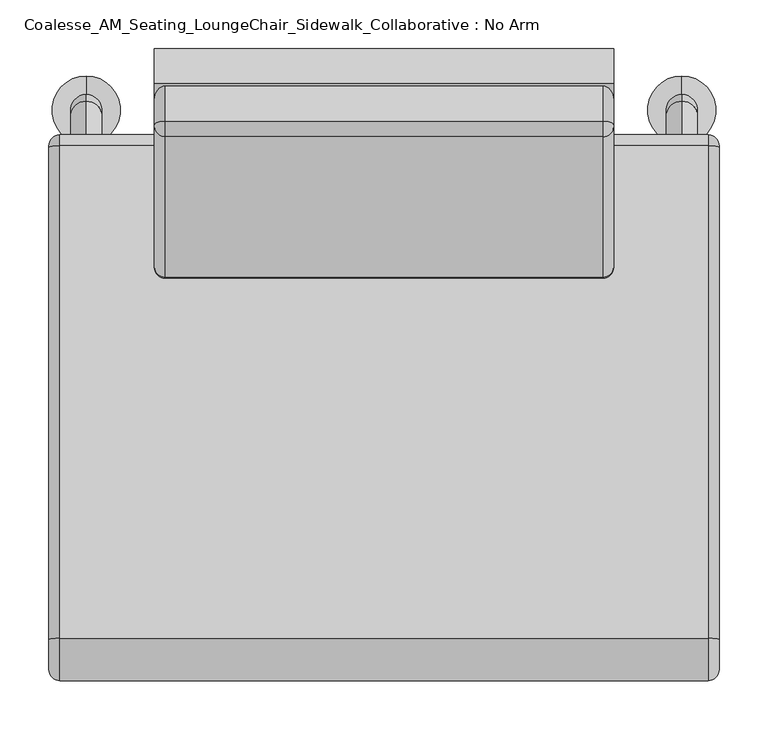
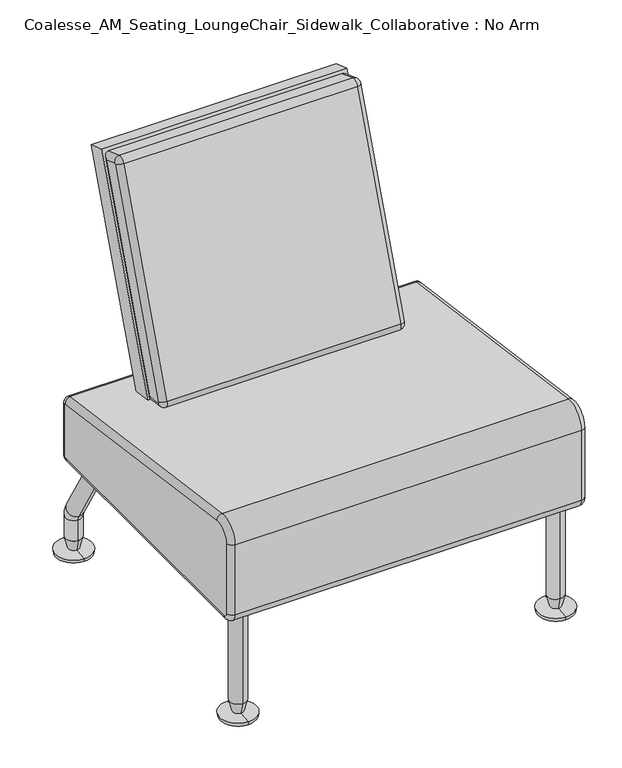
"""IFC4 building model written with IfcOpenShell, lengths in millimetres: furniture geometry, Coalesse_AM_Seating_LoungeChair_Sidewalk_Collaborative : No Arm."""

from ifc_helpers import new_model, si_unit, point, frame, origin, place, context, project, spatial, polyline, circle_curve, ellipse_curve, trimmed, outline, extrude, source, transform, mapped, element, save
from ifc_brep_helpers import plane_surface, cylinder_surface, revolved_surface, advanced_brep


def coalesse_am_seating_loungechair_sidewalk_collaborative_no_c6145337(model_context):
    return source(origin(), model_context, "Body", "SolidModel", [
        advanced_brep(
        [(122.9089794, 412.7742549, 335.1190448), (122.9089794, 414.1472627, 333.546102), (122.9089794, 414.1472627, 228.6), (122.9089794, 412.5597627, 227.0125), (122.9089794, -114.4902373, 227.0125), (122.9089794, -122.4277373, 234.95), (122.9089794, -122.4277373, 377.1837519), (122.9089794, -91.7938701, 403.9237811), (808.7089794, -91.7938701, 403.9237811), (808.7089794, -122.4277373, 377.1837519), (808.7089794, -122.4277373, 234.95), (808.7089794, -114.4902373, 227.0125), (808.7089794, 412.5597627, 227.0125), (808.7089794, 414.1472627, 228.6), (808.7089794, 414.1472627, 333.546102), (808.7089794, 412.7742549, 335.1190448), (797.5964794, -90.2924248, 414.9343814), (797.5964794, 414.2757002, 346.1296451), (134.0214794, 414.2757002, 346.1296451), (134.0214794, -90.2924248, 414.9343814), (797.5964794, 425.2597627, 333.546102), (134.0214794, 425.2597627, 333.546102), (797.5964794, 425.2597627, 228.6), (134.0214794, 425.2597627, 228.6), (797.5964794, 412.5597627, 215.9), (134.0214794, 412.5597627, 215.9), (797.5964794, -114.4902373, 215.9), (134.0214794, -114.4902373, 215.9), (797.5964794, -133.5402373, 234.95), (134.0214726, -133.5402373, 234.95), (797.5964794, -133.5402373, 377.1837519), (134.0214794, -133.5402373, 377.1837519)],
        [
            (0, 1, circle_curve(frame((122.9089794, 412.5597627, 333.546102), z_axis=(-1.0, 0.0, 0.0), x_axis=(0.0, 0.13511318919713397, 0.9908301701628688)), 1.5875)),
            (1, 2),
            (2, 3, circle_curve(frame((122.9089794, 412.5597627, 228.6), z_axis=(-1.0, 0.0, 0.0), x_axis=(0.0, 1.0, 0.0)), 1.5875)),
            (3, 4),
            (4, 5, circle_curve(frame((122.9089794, -114.4902373, 234.95), z_axis=(-1.0, 0.0, 0.0), x_axis=(0.0, 0.0, -1.0)), 7.9375)),
            (5, 6),
            (6, 7, circle_curve(frame((122.9089794, -95.4402373, 377.1837519), z_axis=(-1.0, 0.0, 0.0), x_axis=(0.0, -1.0, 0.0)), 26.9875)),
            (7, 0),
            (8, 9, circle_curve(frame((808.7089794, -95.4402373, 377.1837519), z_axis=(1.0, 0.0, 0.0), x_axis=(0.0, 0.13511318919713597, 0.9908301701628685)), 26.9875)),
            (9, 10),
            (10, 11, circle_curve(frame((808.7089794, -114.4902373, 234.95), z_axis=(1.0, 0.0, 0.0), x_axis=(0.0, -1.0, 0.0)), 7.9375)),
            (11, 12),
            (12, 13, circle_curve(frame((808.7089794, 412.5597627, 228.6), z_axis=(1.0, 0.0, 0.0), x_axis=(0.0, 0.0, -1.0)), 1.5875)),
            (13, 14),
            (14, 15, circle_curve(frame((808.7089794, 412.5597627, 333.546102), z_axis=(1.0, 0.0, 0.0), x_axis=(0.0, 1.0, 0.0)), 1.5875)),
            (15, 8),
            (16, 17),
            (17, 18),
            (18, 19),
            (19, 16),
            (17, 20, circle_curve(frame((797.5964794, 412.5597627, 333.546102), z_axis=(-1.0, 0.0, 0.0), x_axis=(0.0, -1.0, 0.0)), 12.7)),
            (20, 21),
            (21, 18, circle_curve(frame((134.0214794, 412.5597627, 333.546102), z_axis=(1.0, 0.0, 0.0), x_axis=(0.0, -1.0, 0.0)), 12.7)),
            (20, 22),
            (22, 23),
            (23, 21),
            (22, 24, circle_curve(frame((797.5964794, 412.5597627, 228.6), z_axis=(-1.0, 0.0, 0.0), x_axis=(0.0, -1.0, 0.0)), 12.7)),
            (24, 25),
            (25, 23, circle_curve(frame((134.0214794, 412.5597627, 228.6), z_axis=(1.0, 0.0, 0.0), x_axis=(0.0, -1.0, 0.0)), 12.7)),
            (24, 26),
            (26, 27),
            (27, 25),
            (26, 28, circle_curve(frame((797.5964794, -114.4902373, 234.95), z_axis=(-1.0, 0.0, 0.0), x_axis=(0.0, -1.0, 0.0)), 19.05)),
            (28, 29),
            (29, 27, circle_curve(frame((134.0214794, -114.4902373, 234.95), z_axis=(1.0, 0.0, 0.0), x_axis=(0.0, -1.0, 0.0)), 19.05)),
            (28, 30),
            (30, 31),
            (31, 29),
            (30, 16, circle_curve(frame((797.5964794, -95.4402373, 377.1837519), z_axis=(-1.0, 0.0, 0.0), x_axis=(0.0, -1.0, 0.0)), 38.1)),
            (19, 31, circle_curve(frame((134.0214794, -95.4402373, 377.1837519), z_axis=(1.0, 0.0, 0.0), x_axis=(0.0, -1.0, 0.0)), 38.1)),
            (30, 9, circle_curve(frame((797.5964794, -122.4277373, 377.1837519), z_axis=(0.0, 0.0, 0.9999999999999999), x_axis=(0.0, -0.9999999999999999, 0.0)), 11.1125)),
            (8, 16, circle_curve(frame((797.5964794, -91.7938701, 403.9237811), z_axis=(0.0, -0.9908301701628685, 0.13511318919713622), x_axis=(0.0, 0.13511318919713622, 0.9908301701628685)), 11.1125)),
            (28, 10, circle_curve(frame((797.5964794, -122.4277373, 234.95), z_axis=(0.0, 0.0, 1.0), x_axis=(0.0, -1.0, 0.0)), 11.1125)),
            (26, 11, circle_curve(frame((797.5964794, -114.4902373, 227.0125), z_axis=(0.0, -1.0, 0.0), x_axis=(0.0, 0.0, -1.0)), 11.1125)),
            (24, 12, circle_curve(frame((797.5964794, 412.5597627, 227.0125), z_axis=(0.0, -1.0, 0.0), x_axis=(0.0, 0.0, -1.0)), 11.1125)),
            (22, 13, circle_curve(frame((797.5964794, 414.1472627, 228.6), z_axis=(0.0, 0.0, -1.0), x_axis=(0.0, 1.0, 0.0)), 11.1125)),
            (20, 14, circle_curve(frame((797.5964794, 414.1472627, 333.546102), z_axis=(0.0, 0.0, -1.0), x_axis=(0.0, 1.0, 0.0)), 11.1125)),
            (17, 15, circle_curve(frame((797.5964794, 412.7742549, 335.1190448), z_axis=(0.0, 0.9908301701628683, -0.13511318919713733), x_axis=(0.0, 0.13511318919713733, 0.9908301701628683)), 11.1125)),
            (21, 1, circle_curve(frame((134.0214794, 414.1472627, 333.546102), z_axis=(0.0, 0.0, 1.0), x_axis=(0.0, -1.0, 0.0)), 11.1125)),
            (0, 18, circle_curve(frame((134.0214794, 412.7742549, 335.1190448), z_axis=(0.0, 0.9908301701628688, -0.13511318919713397), x_axis=(0.0, -0.13511318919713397, -0.9908301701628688)), 11.1125)),
            (23, 2, circle_curve(frame((134.0214794, 414.1472627, 228.6), z_axis=(0.0, 0.0, 1.0), x_axis=(0.0, -1.0, 0.0)), 11.1125)),
            (25, 3, circle_curve(frame((134.0214794, 412.5597627, 227.0125), z_axis=(0.0, 1.0, 0.0), x_axis=(0.0, 0.0, 1.0)), 11.1125)),
            (27, 4, circle_curve(frame((134.0214794, -114.4902373, 227.0125), z_axis=(0.0, 1.0, 0.0), x_axis=(0.0, 0.0, 1.0)), 11.1125)),
            (29, 5, circle_curve(frame((134.0214794, -122.4277373, 234.95), z_axis=(0.0, 0.0, -1.0), x_axis=(0.0, 1.0, 0.0)), 11.1125)),
            (31, 6, circle_curve(frame((134.0214794, -122.4277373, 377.1837519), z_axis=(0.0, 0.0, -1.0), x_axis=(0.0, 1.0, 0.0)), 11.1125)),
            (19, 7, circle_curve(frame((134.0214794, -91.7938701, 403.9237811), z_axis=(0.0, -0.9908301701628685, 0.1351131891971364), x_axis=(0.0, -0.1351131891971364, -0.9908301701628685)), 11.1125)),
        ],
        [
            plane_surface(frame((122.9089794, 564.9597627, 325.5818208), z_axis=(-1.0000000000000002, 0.0, 0.0), x_axis=(0.0, 0.9908301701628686, -0.1351131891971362))),
            plane_surface(frame((808.7089794, 564.9597627, 325.5818208), z_axis=(1.0000000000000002, 0.0, 0.0), x_axis=(0.0, -0.9908301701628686, 0.1351131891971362))),
            plane_surface(frame((122.9089794, -90.2924248, 414.9343814), z_axis=(0.0, 0.1351131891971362, 0.9908301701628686), x_axis=(1.0, 0.0, 0.0))),
            cylinder_surface(frame((808.7089794, 412.5597627, 333.546102), z_axis=(-1.0, 0.0, 0.0), x_axis=(0.0, -1.0, 0.0)), 12.7),
            plane_surface(frame((122.9089794, 425.2597627, 333.546102), z_axis=(0.0, 1.0, 0.0), x_axis=(1.0, 0.0, 0.0))),
            cylinder_surface(frame((808.7089794, 412.5597627, 228.6), z_axis=(-1.0, 0.0, 0.0), x_axis=(0.0, -1.0, 0.0)), 12.7),
            plane_surface(frame((122.9089794, 412.5597627, 215.9), z_axis=(0.0, 0.0, -1.0), x_axis=(1.0, 0.0, 0.0))),
            cylinder_surface(frame((808.7089794, -114.4902373, 234.95), z_axis=(-1.0, 0.0, 0.0), x_axis=(0.0, -1.0, 0.0)), 19.05),
            plane_surface(frame((122.9089794, -133.5402373, 234.95), z_axis=(0.0, -1.0, 0.0), x_axis=(1.0, 0.0, 0.0))),
            cylinder_surface(frame((808.7089794, -95.4402373, 377.1837519), z_axis=(-1.0, 0.0, 0.0), x_axis=(0.0, -1.0, 0.0)), 38.1),
            revolved_surface(trimmed(ellipse_curve(frame((797.5964794, -91.7938701, 403.9237811), z_axis=(0.0, 0.9908301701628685, -0.13511318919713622), x_axis=(0.0, 0.13511318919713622, 0.9908301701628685)), 11.1125, 11.1125), [point((797.5964794, -90.2924248, 414.9343814))], [point((808.7089794, -91.7938701, 403.9237811))], True, "CARTESIAN"), (808.7089794, -95.4402373, 377.1837519), (1.0, 0.0, 0.0)),
            cylinder_surface(frame((797.5964794, -122.4277373, 377.1837519), z_axis=(0.0, 0.0, -1.0), x_axis=(0.0, -1.0, 0.0)), 11.1125),
            revolved_surface(trimmed(ellipse_curve(frame((797.5964794, -122.4277373, 234.95), z_axis=(0.0, 0.0, 1.0), x_axis=(0.0, -1.0, 0.0)), 11.1125, 11.1125), [point((797.5964794, -133.5402373, 234.95))], [point((808.7089794, -122.4277373, 234.95))], True, "CARTESIAN"), (808.7089794, -114.4902373, 234.95), (1.0, 0.0, 0.0)),
            cylinder_surface(frame((797.5964794, -114.4902373, 227.0125), z_axis=(0.0, 1.0, 0.0), x_axis=(0.0, 0.0, -1.0)), 11.1125),
            revolved_surface(trimmed(ellipse_curve(frame((797.5964794, 412.5597627, 227.0125), z_axis=(0.0, -1.0, 0.0), x_axis=(0.0, 0.0, -1.0)), 11.1125, 11.1125), [point((797.5964794, 412.5597627, 215.9))], [point((808.7089794, 412.5597627, 227.0125))], True, "CARTESIAN"), (808.7089794, 412.5597627, 228.6), (1.0, 0.0, 0.0)),
            cylinder_surface(frame((797.5964794, 414.1472627, 228.6), z_axis=(0.0, 0.0, 1.0), x_axis=(0.0, 1.0, 0.0)), 11.1125),
            revolved_surface(trimmed(ellipse_curve(frame((797.5964794, 414.1472627, 333.546102), z_axis=(0.0, 0.0, -1.0), x_axis=(0.0, 1.0, 0.0)), 11.1125, 11.1125), [point((797.5964794, 425.2597627, 333.546102))], [point((808.7089794, 414.1472627, 333.546102))], True, "CARTESIAN"), (808.7089794, 412.5597627, 333.546102), (1.0, 0.0, 0.0)),
            cylinder_surface(frame((797.5964794, 412.7742549, 335.1190448), z_axis=(0.0, -0.9908301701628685, 0.13511318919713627), x_axis=(0.0, 0.13511318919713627, 0.9908301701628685)), 11.1125),
            revolved_surface(trimmed(ellipse_curve(frame((134.0214794, 412.7742549, 335.1190448), z_axis=(0.0, -0.9908301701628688, 0.13511318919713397), x_axis=(0.0, -0.13511318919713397, -0.9908301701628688)), 11.1125, 11.1125), [point((134.0214794, 414.2757002, 346.1296451))], [point((122.9089794, 412.7742549, 335.1190448))], True, "CARTESIAN"), (122.9089794, 412.5597627, 333.546102), (-1.0, 0.0, 0.0)),
            cylinder_surface(frame((134.0214794, 414.1472627, 333.546102), z_axis=(0.0, 0.0, -1.0), x_axis=(0.0, -1.0, 0.0)), 11.1125),
            revolved_surface(trimmed(ellipse_curve(frame((134.0214794, 414.1472627, 228.6), z_axis=(0.0, 0.0, 1.0), x_axis=(0.0, -1.0, 0.0)), 11.1125, 11.1125), [point((134.0214794, 425.2597627, 228.6))], [point((122.9089794, 414.1472627, 228.6))], True, "CARTESIAN"), (122.9089794, 412.5597627, 228.6), (-1.0, 0.0, 0.0)),
            cylinder_surface(frame((134.0214794, 412.5597627, 227.0125), z_axis=(0.0, -1.0, 0.0), x_axis=(0.0, 0.0, 1.0)), 11.1125),
            revolved_surface(trimmed(ellipse_curve(frame((134.0214794, -114.4902373, 227.0125), z_axis=(0.0, 1.0, 0.0), x_axis=(0.0, 0.0, 1.0)), 11.1125, 11.1125), [point((134.0214794, -114.4902373, 215.9))], [point((122.9089794, -114.4902373, 227.0125))], True, "CARTESIAN"), (122.9089794, -114.4902373, 234.95), (-1.0, 0.0, 0.0)),
            cylinder_surface(frame((134.0214794, -122.4277373, 234.95), z_axis=(0.0, 0.0, 1.0), x_axis=(0.0, 1.0, 0.0)), 11.1125),
            revolved_surface(trimmed(ellipse_curve(frame((134.0214794, -122.4277373, 377.1837519), z_axis=(0.0, 0.0, -1.0), x_axis=(0.0, 1.0, 0.0)), 11.1125, 11.1125), [point((134.0214794, -133.5402373, 377.1837519))], [point((122.9089794, -122.4277373, 377.1837519))], True, "CARTESIAN"), (122.9089794, -95.4402373, 377.1837519), (-1.0, 0.0, 0.0)),
            cylinder_surface(frame((134.0214794, -91.7938701, 403.9237811), z_axis=(0.0, 0.9908301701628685, -0.1351131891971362), x_axis=(0.0, -0.1351131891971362, -0.9908301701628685)), 11.1125),
        ],
        [
            (0, [[1, 2, 3, 4, 5, 6, 7, 8]]),
            (1, [[9, 10, 11, 12, 13, 14, 15, 16]]),
            (2, [[17, 18, 19, 20]]),
            (3, [[21, 22, 23, -18]]),
            (4, [[24, 25, 26, -22]]),
            (5, [[27, 28, 29, -25]]),
            (6, [[30, 31, 32, -28]]),
            (7, [[33, 34, 35, -31]]),
            (8, [[36, 37, 38, -34]]),
            (9, [[39, -20, 40, -37]]),
            (10, [[41, -9, 42, -39]]),
            (11, [[-41, -36, 43, -10]]),
            (12, [[-43, -33, 44, -11]]),
            (13, [[-44, -30, 45, -12]]),
            (14, [[-45, -27, 46, -13]]),
            (15, [[-46, -24, 47, -14]]),
            (16, [[-47, -21, 48, -15]]),
            (17, [[-42, -16, -48, -17]]),
            (18, [[49, -1, 50, -23]]),
            (19, [[-49, -26, 51, -2]]),
            (20, [[-51, -29, 52, -3]]),
            (21, [[-52, -32, 53, -4]]),
            (22, [[-53, -35, 54, -5]]),
            (23, [[-54, -38, 55, -6]]),
            (24, [[-55, -40, 56, -7]]),
            (25, [[-50, -8, -56, -19]]),
        ],
    ),
        advanced_brep(
        [(230.8589764, 435.601958, 772.4897206), (230.8589764, 460.9619318, 763.2594642), (230.8589764, 317.9995565, 370.4735514), (230.8589764, 290.9791404, 374.1581532), (230.8589764, 289.7018705, 376.274053), (230.8589764, 433.56724, 771.5409151), (700.7589825, 289.7018705, 376.274053), (700.7589825, 290.9791404, 374.1581532), (700.7589825, 317.9995565, 370.4735514), (700.7589825, 460.9619318, 763.2594642), (700.7589825, 435.601958, 772.4897206), (700.7589825, 433.56724, 771.5409151), (241.9714764, 475.2049673, 769.9011067), (241.9714764, 439.4026498, 782.9320574), (689.6464825, 439.4026498, 782.9320574), (689.6464825, 475.2049673, 769.9011067), (241.9714764, 325.3770207, 358.2521909), (689.6464825, 325.3770207, 358.2521909), (241.9714764, 289.477695, 363.1475529), (689.6464825, 289.477695, 363.1475529), (241.9714764, 279.2595362, 380.0747518), (689.6464825, 279.2595362, 380.0747518), (241.9714764, 423.1249057, 775.3416139), (689.6464825, 423.1249057, 775.3416139)],
        [
            (0, 1),
            (1, 2),
            (2, 3),
            (3, 4, circle_curve(frame((230.8589764, 291.1936325, 375.7310961), z_axis=(-1.0, 0.0, 0.0), x_axis=(0.0, -0.13511318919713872, -0.9908301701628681)), 1.5875)),
            (4, 5),
            (5, 0, circle_curve(frame((230.8589764, 435.059002, 770.9979582), z_axis=(-1.0, 0.0, 0.0), x_axis=(0.0, -0.9396926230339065, 0.3420201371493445)), 1.5875)),
            (6, 7, circle_curve(frame((700.7589825, 291.1936325, 375.7310961), z_axis=(1.0, 0.0, 0.0), x_axis=(0.0, -0.9396926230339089, 0.3420201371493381)), 1.5875)),
            (7, 8),
            (8, 9),
            (9, 10),
            (10, 11, circle_curve(frame((700.7589825, 435.059002, 770.9979582), z_axis=(1.0, 0.0, 0.0), x_axis=(0.0, 0.34201951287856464, 0.939692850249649)), 1.5875)),
            (11, 6),
            (12, 13),
            (13, 14),
            (14, 15),
            (15, 12),
            (16, 12),
            (15, 17),
            (17, 16),
            (18, 16),
            (17, 19),
            (19, 18),
            (20, 18, circle_curve(frame((241.9714764, 291.1936325, 375.7310961), z_axis=(1.0, 0.0, 0.0), x_axis=(0.0, -1.0, 0.0)), 12.7)),
            (19, 21, circle_curve(frame((689.6464825, 291.1936325, 375.7310961), z_axis=(-1.0, 0.0, 0.0), x_axis=(0.0, -1.0, 0.0)), 12.7)),
            (21, 20),
            (22, 20),
            (21, 23),
            (23, 22),
            (13, 22, circle_curve(frame((241.9714764, 435.059002, 770.9979582), z_axis=(1.0, 0.0, 0.0), x_axis=(0.0, -1.0, 0.0)), 12.7)),
            (23, 14, circle_curve(frame((689.6464825, 435.059002, 770.9979582), z_axis=(-1.0, 0.0, 0.0), x_axis=(0.0, -1.0, 0.0)), 12.7)),
            (12, 1, ellipse_curve(frame((241.9714764, 460.9619318, 763.2594642), z_axis=(0.0, -0.4226185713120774, 0.9063076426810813), x_axis=(0.0, 0.9063076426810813, 0.4226185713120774)), 15.7154534, 11.1125)),
            (0, 13, circle_curve(frame((241.9714764, 435.601958, 772.4897206), z_axis=(0.0, 0.9396928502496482, -0.34201951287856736), x_axis=(0.0, -0.3420195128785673, -0.939692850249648)), 11.1125)),
            (16, 2, ellipse_curve(frame((241.9714764, 317.9995565, 370.4735514), z_axis=(0.0, 0.8561100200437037, 0.5167936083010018), x_axis=(0.0, 0.5167936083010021, -0.8561100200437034)), 14.2754555, 11.1125)),
            (18, 3, circle_curve(frame((241.9714764, 290.9791404, 374.1581532), z_axis=(0.0, 0.9908301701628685, -0.13511318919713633), x_axis=(0.0, 0.13511318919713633, 0.9908301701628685)), 11.1125)),
            (20, 4, circle_curve(frame((241.9714764, 289.7018705, 376.274053), z_axis=(0.0, -0.34202013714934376, -0.9396926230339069), x_axis=(0.0, 0.9396926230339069, -0.34202013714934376)), 11.1125)),
            (22, 5, circle_curve(frame((241.9714764, 433.56724, 771.5409151), z_axis=(0.0, -0.34202013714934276, -0.9396926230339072), x_axis=(0.0, 0.9396926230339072, -0.34202013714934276)), 11.1125)),
            (19, 7, circle_curve(frame((689.6464825, 290.9791404, 374.1581532), z_axis=(0.0, -0.9908301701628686, 0.13511318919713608), x_axis=(0.0, -0.13511318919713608, -0.9908301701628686)), 11.1125)),
            (6, 21, circle_curve(frame((689.6464825, 289.7018705, 376.274053), z_axis=(0.0, -0.34202013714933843, -0.9396926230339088), x_axis=(0.0, -0.9396926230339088, 0.34202013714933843)), 11.1125)),
            (17, 8, ellipse_curve(frame((689.6464825, 317.9995565, 370.4735514), z_axis=(0.0, -0.8561100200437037, -0.5167936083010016), x_axis=(0.0, 0.5167936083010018, -0.8561100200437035)), 14.2754555, 11.1125)),
            (15, 9, ellipse_curve(frame((689.6464825, 460.9619318, 763.2594642), z_axis=(0.0, 0.4226185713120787, -0.9063076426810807), x_axis=(0.0, 0.9063076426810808, 0.42261857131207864)), 15.7154534, 11.1125)),
            (14, 10, circle_curve(frame((689.6464825, 435.601958, 772.4897206), z_axis=(0.0, 0.9396928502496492, -0.3420195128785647), x_axis=(0.0, 0.34201951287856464, 0.939692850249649)), 11.1125)),
            (23, 11, circle_curve(frame((689.6464825, 433.56724, 771.5409151), z_axis=(0.0, 0.34202013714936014, 0.9396926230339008), x_axis=(0.0, -0.9396926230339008, 0.34202013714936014)), 11.1125)),
        ],
        [
            plane_surface(frame((230.8589764, 476.9677554, 769.2595057), z_axis=(-1.0, 0.0, 0.0), x_axis=(0.0, 0.9396928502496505, -0.3420195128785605))),
            plane_surface(frame((700.7589825, 476.9677554, 769.2595057), z_axis=(1.0, 0.0, 0.0), x_axis=(0.0, -0.9396928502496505, 0.3420195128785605))),
            plane_surface(frame((230.8589764, 439.4026498, 782.9320574), z_axis=(0.0, 0.3420195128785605, 0.9396928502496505), x_axis=(1.0, 0.0, 0.0))),
            plane_surface(frame((230.8589764, 475.2049673, 769.9011067), z_axis=(0.0, 0.939692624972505, -0.34202013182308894), x_axis=(1.0, 0.0, 0.0))),
            plane_surface(frame((230.8589764, 325.3770207, 358.2521909), z_axis=(0.0, -0.13511318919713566, -0.9908301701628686), x_axis=(1.0, 0.0, 0.0))),
            cylinder_surface(frame((700.7589825, 291.1936325, 375.7310961), z_axis=(-1.0, 0.0, 0.0), x_axis=(0.0, -1.0, 0.0)), 12.7),
            plane_surface(frame((230.8589764, 279.2595362, 380.0747518), z_axis=(0.0, -0.9396926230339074, 0.3420201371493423), x_axis=(1.0, 0.0, 0.0))),
            cylinder_surface(frame((700.7589825, 435.059002, 770.9979582), z_axis=(-1.0, 0.0, 0.0), x_axis=(0.0, -1.0, 0.0)), 12.7),
            cylinder_surface(frame((241.9714764, 435.601958, 772.4897206), z_axis=(0.0, 0.939692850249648, -0.3420195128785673), x_axis=(0.0, -0.3420195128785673, -0.939692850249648)), 11.1125),
            cylinder_surface(frame((241.9714764, 464.762633, 773.7018054), z_axis=(0.0, -0.3420201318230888, -0.939692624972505), x_axis=(0.0, -0.939692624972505, 0.3420201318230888)), 11.1125),
            cylinder_surface(frame((241.9714764, 326.878466, 369.2627912), z_axis=(0.0, -0.9908301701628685, 0.13511318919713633), x_axis=(0.0, 0.13511318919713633, 0.9908301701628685)), 11.1125),
            revolved_surface(trimmed(ellipse_curve(frame((241.9714764, 290.9791404, 374.1581532), z_axis=(0.0, 0.9908301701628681, -0.1351131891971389), x_axis=(0.0, 0.1351131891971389, 0.9908301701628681)), 11.1125, 11.1125), [point((241.9714764, 289.477695, 363.1475529))], [point((230.8589764, 290.9791404, 374.1581532))], True, "CARTESIAN"), (230.8589764, 291.1936325, 375.7310961), (-1.0, 0.0, 0.0)),
            cylinder_surface(frame((241.9714764, 289.7018705, 376.274053), z_axis=(0.0, 0.34202013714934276, 0.9396926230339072), x_axis=(0.0, 0.9396926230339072, -0.34202013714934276)), 11.1125),
            revolved_surface(trimmed(ellipse_curve(frame((241.9714764, 433.56724, 771.5409151), z_axis=(0.0, -0.342020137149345, -0.9396926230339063), x_axis=(0.0, 0.9396926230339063, -0.342020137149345)), 11.1125, 11.1125), [point((241.9714764, 423.1249057, 775.3416139))], [point((230.8589764, 433.56724, 771.5409151))], True, "CARTESIAN"), (230.8589764, 435.059002, 770.9979582), (-1.0, 0.0, 0.0)),
            revolved_surface(trimmed(ellipse_curve(frame((689.6464825, 289.7018705, 376.274053), z_axis=(0.0, 0.34202013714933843, 0.9396926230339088), x_axis=(0.0, -0.9396926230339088, 0.34202013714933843)), 11.1125, 11.1125), [point((689.6464825, 279.2595362, 380.0747518))], [point((700.7589825, 289.7018705, 376.274053))], True, "CARTESIAN"), (700.7589825, 291.1936325, 375.7310961), (1.0, 0.0, 0.0)),
            cylinder_surface(frame((689.6464825, 290.9791404, 374.1581532), z_axis=(0.0, 0.9908301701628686, -0.1351131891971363), x_axis=(0.0, -0.1351131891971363, -0.9908301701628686)), 11.1125),
            cylinder_surface(frame((689.6464825, 314.9346864, 362.0528896), z_axis=(0.0, 0.34202013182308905, 0.9396926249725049), x_axis=(0.0, 0.9396926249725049, -0.34202013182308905)), 11.1125),
            cylinder_surface(frame((689.6464825, 471.4042755, 759.4587699), z_axis=(0.0, -0.939692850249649, 0.34201951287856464), x_axis=(0.0, 0.34201951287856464, 0.939692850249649)), 11.1125),
            revolved_surface(trimmed(ellipse_curve(frame((689.6464825, 435.601958, 772.4897206), z_axis=(0.0, 0.939692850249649, -0.3420195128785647), x_axis=(0.0, 0.3420195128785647, 0.939692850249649)), 11.1125, 11.1125), [point((689.6464825, 439.4026498, 782.9320574))], [point((700.7589825, 435.601958, 772.4897206))], True, "CARTESIAN"), (700.7589825, 435.059002, 770.9979582), (1.0, 0.0, 0.0)),
            cylinder_surface(frame((689.6464825, 433.56724, 771.5409151), z_axis=(0.0, -0.34202013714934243, -0.9396926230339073), x_axis=(0.0, -0.9396926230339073, 0.34202013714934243)), 11.1125),
        ],
        [
            (0, [[1, 2, 3, 4, 5, 6]]),
            (1, [[7, 8, 9, 10, 11, 12]]),
            (2, [[13, 14, 15, 16]]),
            (3, [[17, -16, 18, 19]]),
            (4, [[20, -19, 21, 22]]),
            (5, [[23, -22, 24, 25]]),
            (6, [[26, -25, 27, 28]]),
            (7, [[29, -28, 30, -14]]),
            (8, [[31, -1, 32, -13]]),
            (9, [[-31, -17, 33, -2]]),
            (10, [[-33, -20, 34, -3]]),
            (11, [[-34, -23, 35, -4]]),
            (12, [[-35, -26, 36, -5]]),
            (13, [[-32, -6, -36, -29]]),
            (14, [[37, -7, 38, -24]]),
            (15, [[-37, -21, 39, -8]]),
            (16, [[-39, -18, 40, -9]]),
            (17, [[-40, -15, 41, -10]]),
            (18, [[-41, -30, 42, -11]]),
            (19, [[-38, -12, -42, -27]]),
        ],
    ),
        extrude(outline(polyline([(513.2448372, 763.0177625), (364.0049937, 352.9847407), (325.3770207, 358.2521909), (477.4425175, 776.0487255), (513.2448372, 763.0177625)])), frame((230.8589764, 0.0, 0.0), z_axis=(1.0, 0.0, 0.0), x_axis=(0.0, 1.0, 0.0)), (0.0, 0.0, 1.0), 469.9000061),
        advanced_brep(
        [(770.5801534, 450.6597627, 0.0), (770.5801534, 484.5264293, 0.0), (770.5801534, 416.793096, 0.0), (770.5801534, 434.7847627, 31.75), (770.5801534, 466.5347627, 31.75), (770.5801534, 450.6597627, 31.75), (770.5801534, 440.7764092, 8.5001207), (770.5801534, 460.5431161, 8.5001207), (770.5801534, 415.7347627, 6.35), (770.5801534, 485.5847627, 6.35)],
        [
            (0, 1),
            (1, 2, circle_curve(frame((770.5801534, 450.6597627, 0.0), z_axis=(0.0, 0.0, -1.0), x_axis=(0.0, 1.0, 0.0)), 33.8666667)),
            (2, 0),
            (2, 1, circle_curve(frame((770.5801534, 450.6597627, 0.0), z_axis=(0.0, 0.0, -1.0), x_axis=(0.0, 1.0, 0.0)), 33.8666667)),
            (3, 4, circle_curve(frame((770.5801534, 450.6597627, 31.75), z_axis=(0.0, 0.0, 1.0), x_axis=(0.0, 1.0, 0.0)), 15.875)),
            (4, 5),
            (5, 3),
            (4, 3, circle_curve(frame((770.5801534, 450.6597627, 31.75), z_axis=(0.0, 0.0, 1.0), x_axis=(0.0, 1.0, 0.0)), 15.875)),
            (6, 7, circle_curve(frame((770.5801534, 450.6597627, 8.5001207), z_axis=(0.0, 0.0, 1.0), x_axis=(0.0, 1.0, 0.0)), 9.8833534)),
            (7, 4),
            (3, 6),
            (7, 6, circle_curve(frame((770.5801534, 450.6597627, 8.5001207), z_axis=(0.0, 0.0, 1.0), x_axis=(0.0, 1.0, 0.0)), 9.8833534)),
            (8, 9, circle_curve(frame((770.5801534, 450.6597627, 6.35), z_axis=(0.0, 0.0, 1.0), x_axis=(0.0, 1.0, 0.0)), 34.925)),
            (9, 7),
            (6, 8),
            (9, 8, circle_curve(frame((770.5801534, 450.6597627, 6.35), z_axis=(0.0, 0.0, 1.0), x_axis=(0.0, 1.0, 0.0)), 34.925)),
            (1, 9),
            (8, 2),
        ],
        [
            plane_surface(frame((770.5801534, 450.6597627, 0.0), z_axis=(0.0, 0.0, -1.0), x_axis=(0.0, 1.0, 0.0))),
            plane_surface(frame((770.5801534, 450.6597627, 31.75), z_axis=(0.0, 0.0, 1.0), x_axis=(0.0, 1.0, 0.0))),
            revolved_surface(polyline([(770.5801534, 466.5347627, 31.75), (770.5801534, 460.5431161, 8.5001207)]), (770.5801534, 450.6597627, -31.75), (0.0, 0.0, -1.0)),
            revolved_surface(polyline([(770.5801534, 460.5431161, 8.5001207), (770.5801534, 485.5847627, 6.35)]), (770.5801534, 450.6597627, -31.75), (0.0, 0.0, -1.0)),
            revolved_surface(polyline([(770.5801534, 485.5847627, 6.35), (770.5801534, 484.5264293, 0.0)]), (770.5801534, 450.6597627, -31.75), (0.0, 0.0, -1.0)),
        ],
        [
            (0, [[1, 2, 3]]),
            (0, [[-3, 4, -1]]),
            (1, [[5, 6, 7]]),
            (1, [[8, -7, -6]]),
            (2, [[9, 10, -5, 11]]),
            (2, [[12, -11, -8, -10]]),
            (3, [[13, 14, -9, 15]]),
            (3, [[16, -15, -12, -14]]),
            (4, [[-2, 17, -13, 18]]),
            (4, [[-4, -18, -16, -17]]),
        ],
    ),
        advanced_brep(
        [(770.5801534, 434.7847627, 31.75), (770.5801534, 466.5347627, 31.75), (770.5801534, 434.7847627, 73.4363994), (770.5801534, 466.5347627, 73.4363994), (770.5801534, 459.6905974, 98.4722611), (770.5801534, 432.3561879, 82.3200923), (770.5801534, 353.4225241, 215.8999916), (770.5801534, 380.7569336, 232.0521604)],
        [
            (0, 1, circle_curve(frame((770.5801534, 450.6597627, 31.75), z_axis=(0.0, 0.0, -1.0), x_axis=(0.0, 1.0, 0.0)), 15.875)),
            (1, 0, circle_curve(frame((770.5801534, 450.6597627, 31.75), z_axis=(0.0, 0.0, -1.0), x_axis=(0.0, 1.0, 0.0)), 15.875)),
            (0, 2),
            (2, 3, circle_curve(frame((770.5801534, 450.6597627, 73.4363994), z_axis=(0.0, 0.0, -1.0), x_axis=(0.0, 1.0, 0.0)), 15.875)),
            (3, 1),
            (3, 2, circle_curve(frame((770.5801534, 450.6597627, 73.4363994), z_axis=(0.0, 0.0, -1.0), x_axis=(0.0, 1.0, 0.0)), 15.875)),
            (4, 3, circle_curve(frame((770.5801534, 417.3222627, 73.4363994), z_axis=(-1.0, 0.0, 0.0), x_axis=(0.0, 1.0, 0.0)), 49.2125)),
            (2, 5, circle_curve(frame((770.5801534, 417.3222627, 73.4363994), z_axis=(1.0, 0.0, 0.0), x_axis=(0.0, 1.0, 0.0)), 17.4625)),
            (5, 4, circle_curve(frame((770.5801534, 446.0233926, 90.3961767), z_axis=(0.0, 0.5087297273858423, -0.8609262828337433), x_axis=(0.0, 0.8609262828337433, 0.5087297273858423)), 15.875)),
            (4, 5, circle_curve(frame((770.5801534, 446.0233926, 90.3961767), z_axis=(0.0, 0.508729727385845, -0.8609262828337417), x_axis=(0.0, 0.8609262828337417, 0.508729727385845)), 15.875)),
            (6, 7, circle_curve(frame((770.5801534, 367.0897288, 223.976076), z_axis=(0.0, -0.5087297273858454, 0.8609262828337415), x_axis=(0.0, 0.8609262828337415, 0.5087297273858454)), 15.875)),
            (7, 6, circle_curve(frame((770.5801534, 367.0897288, 223.976076), z_axis=(0.0, -0.5087297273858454, 0.8609262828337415), x_axis=(0.0, 0.8609262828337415, 0.5087297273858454)), 15.875)),
            (5, 6),
            (7, 4),
        ],
        [
            plane_surface(frame((770.5801534, 450.6597627, 31.75), z_axis=(0.0, 0.0, -1.0), x_axis=(-1.0, 0.0, 0.0))),
            cylinder_surface(frame((770.5801534, 450.6597627, 31.75), z_axis=(0.0, 0.0, -1.0), x_axis=(0.0, 1.0, 0.0)), 15.875),
            revolved_surface(trimmed(ellipse_curve(frame((770.5801534, 450.6597627, 73.4363994), z_axis=(0.0, 0.0, -1.0), x_axis=(0.0, 1.0, 0.0)), 15.875, 15.875), [point((770.5801534, 434.7847627, 73.4363994))], [point((770.5801534, 466.5347627, 73.4363994))], True, "CARTESIAN"), (770.5801534, 417.3222627, 73.4363994), (1.0, 0.0, 0.0)),
            revolved_surface(trimmed(ellipse_curve(frame((770.5801534, 450.6597627, 73.4363994), z_axis=(0.0, 0.0, -1.0), x_axis=(0.0, 1.0, 0.0)), 15.875, 15.875), [point((770.5801534, 466.5347627, 73.4363994))], [point((770.5801534, 434.7847627, 73.4363994))], True, "CARTESIAN"), (770.5801534, 417.3222627, 73.4363994), (1.0, 0.0, 0.0)),
            plane_surface(frame((770.5801534, 367.0897288, 223.976076), z_axis=(0.0, -0.5087297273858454, 0.8609262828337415), x_axis=(-1.0, 0.0, 0.0))),
            cylinder_surface(frame((770.5801534, 446.0233926, 90.3961767), z_axis=(0.0, 0.5087297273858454, -0.8609262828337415), x_axis=(0.0, 0.8609262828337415, 0.5087297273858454)), 15.875),
        ],
        [
            (0, [[1, 2]]),
            (1, [[-1, 3, 4, 5]]),
            (1, [[-2, -5, 6, -3]]),
            (2, [[7, -4, 8, 9]]),
            (3, [[-8, -6, -7, 10]]),
            (4, [[11, 12]]),
            (5, [[-9, 13, -12, 14]]),
            (5, [[-10, -14, -11, -13]]),
        ],
    ),
        advanced_brep(
        [(161.0378055, 415.7347627, 6.35), (161.0378055, 485.5847627, 6.35), (161.0378055, 484.5264293, 0.0), (161.0378055, 416.793096, 0.0), (161.0378055, 440.7764092, 8.5001207), (161.0378055, 460.5431161, 8.5001207), (161.0378055, 434.7847627, 31.75), (161.0378055, 466.5347627, 31.75), (161.0378055, 450.6597627, 31.75), (161.0378055, 450.6597627, 0.0)],
        [
            (0, 1, circle_curve(frame((161.0378055, 450.6597627, 6.35), z_axis=(0.0, 0.0, -1.0), x_axis=(0.0, 1.0, 0.0)), 34.925)),
            (1, 2),
            (2, 3, circle_curve(frame((161.0378055, 450.6597627, 0.0), z_axis=(0.0, 0.0, 1.0), x_axis=(0.0, 1.0, 0.0)), 33.8666667)),
            (3, 0),
            (1, 0, circle_curve(frame((161.0378055, 450.6597627, 6.35), z_axis=(0.0, 0.0, -1.0), x_axis=(0.0, 1.0, 0.0)), 34.925)),
            (3, 2, circle_curve(frame((161.0378055, 450.6597627, 0.0), z_axis=(0.0, 0.0, 1.0), x_axis=(0.0, 1.0, 0.0)), 33.8666667)),
            (4, 5, circle_curve(frame((161.0378055, 450.6597627, 8.5001207), z_axis=(0.0, 0.0, -1.0), x_axis=(0.0, 1.0, 0.0)), 9.8833534)),
            (5, 1),
            (0, 4),
            (5, 4, circle_curve(frame((161.0378055, 450.6597627, 8.5001207), z_axis=(0.0, 0.0, -1.0), x_axis=(0.0, 1.0, 0.0)), 9.8833534)),
            (6, 7, circle_curve(frame((161.0378055, 450.6597627, 31.75), z_axis=(0.0, 0.0, -1.0), x_axis=(0.0, 1.0, 0.0)), 15.875)),
            (7, 5),
            (4, 6),
            (7, 6, circle_curve(frame((161.0378055, 450.6597627, 31.75), z_axis=(0.0, 0.0, -1.0), x_axis=(0.0, 1.0, 0.0)), 15.875)),
            (8, 7),
            (6, 8),
            (2, 9),
            (9, 3),
        ],
        [
            revolved_surface(polyline([(161.0378055, 484.5264293, 0.0), (161.0378055, 485.5847627, 6.35)]), (161.0378055, 450.6597627, -31.75), (0.0, 0.0, 1.0)),
            revolved_surface(polyline([(161.0378055, 485.5847627, 6.35), (161.0378055, 460.5431161, 8.5001207)]), (161.0378055, 450.6597627, -31.75), (0.0, 0.0, 1.0)),
            revolved_surface(polyline([(161.0378055, 460.5431161, 8.5001207), (161.0378055, 466.5347627, 31.75)]), (161.0378055, 450.6597627, -31.75), (0.0, 0.0, 1.0)),
            plane_surface(frame((161.0378055, 450.6597627, 31.75), z_axis=(0.0, 0.0, 1.0), x_axis=(0.0, 1.0, 0.0))),
            plane_surface(frame((161.0378055, 450.6597627, 0.0), z_axis=(0.0, 0.0, -1.0), x_axis=(0.0, 1.0, 0.0))),
        ],
        [
            (0, [[1, 2, 3, 4]]),
            (0, [[5, -4, 6, -2]]),
            (1, [[7, 8, -1, 9]]),
            (1, [[10, -9, -5, -8]]),
            (2, [[11, 12, -7, 13]]),
            (2, [[14, -13, -10, -12]]),
            (3, [[15, -11, 16]]),
            (3, [[-16, -14, -15]]),
            (4, [[-3, 17, 18]]),
            (4, [[-6, -18, -17]]),
        ],
    ),
        advanced_brep(
        [(161.0378055, 466.5347627, 31.75), (161.0378055, 434.7847627, 31.75), (161.0378055, 466.5347627, 73.4363994), (161.0378055, 434.7847627, 73.4363994), (161.0378055, 432.3561879, 82.3200923), (161.0378055, 459.6905974, 98.4722611), (161.0378055, 380.7569336, 232.0521604), (161.0378055, 353.4225241, 215.8999916)],
        [
            (0, 1, circle_curve(frame((161.0378055, 450.6597627, 31.75), z_axis=(0.0, 0.0, -1.0), x_axis=(0.0, -1.0, 0.0)), 15.875)),
            (1, 0, circle_curve(frame((161.0378055, 450.6597627, 31.75), z_axis=(0.0, 0.0, -1.0), x_axis=(0.0, -1.0, 0.0)), 15.875)),
            (0, 2),
            (2, 3, circle_curve(frame((161.0378055, 450.6597627, 73.4363994), z_axis=(0.0, 0.0, -1.0), x_axis=(0.0, -1.0, 0.0)), 15.875)),
            (3, 1),
            (3, 2, circle_curve(frame((161.0378055, 450.6597627, 73.4363994), z_axis=(0.0, 0.0, -1.0), x_axis=(0.0, -1.0, 0.0)), 15.875)),
            (4, 3, circle_curve(frame((161.0378055, 417.3222627, 73.4363994), z_axis=(-1.0, 0.0, 0.0), x_axis=(0.0, 1.0, 0.0)), 17.4625)),
            (2, 5, circle_curve(frame((161.0378055, 417.3222627, 73.4363994), z_axis=(1.0, 0.0, 0.0), x_axis=(0.0, 1.0, 0.0)), 49.2125)),
            (5, 4, circle_curve(frame((161.0378055, 446.0233926, 90.3961767), z_axis=(0.0, 0.5087297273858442, -0.8609262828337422), x_axis=(0.0, -0.8609262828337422, -0.5087297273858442)), 15.875)),
            (4, 5, circle_curve(frame((161.0378055, 446.0233926, 90.3961767), z_axis=(0.0, 0.5087297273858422, -0.8609262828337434), x_axis=(0.0, -0.8609262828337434, -0.5087297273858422)), 15.875)),
            (6, 7, circle_curve(frame((161.0378055, 367.0897288, 223.976076), z_axis=(0.0, -0.5087297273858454, 0.8609262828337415), x_axis=(0.0, -0.8609262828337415, -0.5087297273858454)), 15.875)),
            (7, 6, circle_curve(frame((161.0378055, 367.0897288, 223.976076), z_axis=(0.0, -0.5087297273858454, 0.8609262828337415), x_axis=(0.0, -0.8609262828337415, -0.5087297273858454)), 15.875)),
            (5, 6),
            (7, 4),
        ],
        [
            plane_surface(frame((161.0378055, 450.6597627, 31.75), z_axis=(0.0, 0.0, -1.0), x_axis=(1.0, 0.0, 0.0))),
            cylinder_surface(frame((161.0378055, 450.6597627, 31.75), z_axis=(0.0, 0.0, -1.0), x_axis=(0.0, -1.0, 0.0)), 15.875),
            revolved_surface(trimmed(ellipse_curve(frame((161.0378055, 450.6597627, 73.4363994), z_axis=(0.0, 0.0, -1.0), x_axis=(0.0, -1.0, 0.0)), 15.875, 15.875), [point((161.0378055, 466.5347627, 73.4363994))], [point((161.0378055, 434.7847627, 73.4363994))], True, "CARTESIAN"), (161.0378055, 417.3222627, 73.4363994), (1.0, 0.0, 0.0)),
            revolved_surface(trimmed(ellipse_curve(frame((161.0378055, 450.6597627, 73.4363994), z_axis=(0.0, 0.0, -1.0), x_axis=(0.0, -1.0, 0.0)), 15.875, 15.875), [point((161.0378055, 434.7847627, 73.4363994))], [point((161.0378055, 466.5347627, 73.4363994))], True, "CARTESIAN"), (161.0378055, 417.3222627, 73.4363994), (1.0, 0.0, 0.0)),
            plane_surface(frame((161.0378055, 367.0897288, 223.976076), z_axis=(0.0, -0.5087297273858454, 0.8609262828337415), x_axis=(1.0, 0.0, 0.0))),
            cylinder_surface(frame((161.0378055, 446.0233926, 90.3961767), z_axis=(0.0, 0.5087297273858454, -0.8609262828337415), x_axis=(0.0, -0.8609262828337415, -0.5087297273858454)), 15.875),
        ],
        [
            (0, [[1, 2]]),
            (1, [[-1, 3, 4, 5]]),
            (1, [[-2, -5, 6, -3]]),
            (2, [[7, -4, 8, 9]]),
            (3, [[-8, -6, -7, 10]]),
            (4, [[11, 12]]),
            (5, [[-9, 13, -12, 14]]),
            (5, [[-10, -14, -11, -13]]),
        ],
    ),
        advanced_brep(
        [(770.5801534, -111.3152373, 31.75), (770.5801534, -79.5652373, 31.75), (770.5801534, -79.5652373, 222.25), (770.5801534, -111.3152373, 222.25), (770.5801534, -105.3235908, 8.5001207), (770.5801534, -85.5568839, 8.5001207), (770.5801534, -130.3652373, 6.35), (770.5801534, -60.5152373, 6.35), (770.5801534, -129.306904, 0.0), (770.5801534, -61.5735707, 0.0), (770.5801534, -95.4402373, 0.0), (770.5801534, -95.4402373, 222.25)],
        [
            (0, 1, circle_curve(frame((770.5801534, -95.4402373, 31.75), z_axis=(0.0, 0.0, 1.0), x_axis=(0.0, 1.0, 0.0)), 15.875)),
            (1, 2),
            (2, 3, circle_curve(frame((770.5801534, -95.4402373, 222.25), z_axis=(0.0, 0.0, -1.0), x_axis=(0.0, 1.0, 0.0)), 15.875)),
            (3, 0),
            (1, 0, circle_curve(frame((770.5801534, -95.4402373, 31.75), z_axis=(0.0, 0.0, 1.0), x_axis=(0.0, 1.0, 0.0)), 15.875)),
            (3, 2, circle_curve(frame((770.5801534, -95.4402373, 222.25), z_axis=(0.0, 0.0, -1.0), x_axis=(0.0, 1.0, 0.0)), 15.875)),
            (4, 5, circle_curve(frame((770.5801534, -95.4402373, 8.5001207), z_axis=(0.0, 0.0, 1.0), x_axis=(0.0, 1.0, 0.0)), 9.8833534)),
            (5, 1),
            (0, 4),
            (5, 4, circle_curve(frame((770.5801534, -95.4402373, 8.5001207), z_axis=(0.0, 0.0, 1.0), x_axis=(0.0, 1.0, 0.0)), 9.8833534)),
            (6, 7, circle_curve(frame((770.5801534, -95.4402373, 6.35), z_axis=(0.0, 0.0, 1.0), x_axis=(0.0, 1.0, 0.0)), 34.925)),
            (7, 5),
            (4, 6),
            (7, 6, circle_curve(frame((770.5801534, -95.4402373, 6.35), z_axis=(0.0, 0.0, 1.0), x_axis=(0.0, 1.0, 0.0)), 34.925)),
            (8, 9, circle_curve(frame((770.5801534, -95.4402373, 0.0), z_axis=(0.0, 0.0, 1.0), x_axis=(0.0, 1.0, 0.0)), 33.8666667)),
            (9, 7),
            (6, 8),
            (9, 8, circle_curve(frame((770.5801534, -95.4402373, 0.0), z_axis=(0.0, 0.0, 1.0), x_axis=(0.0, 1.0, 0.0)), 33.8666667)),
            (10, 9),
            (8, 10),
            (2, 11),
            (11, 3),
        ],
        [
            cylinder_surface(frame((770.5801534, -95.4402373, -95.25), z_axis=(0.0, 0.0, -1.0), x_axis=(0.0, 1.0, 0.0)), 15.875),
            revolved_surface(polyline([(770.5801534, -79.5652373, 31.75), (770.5801534, -85.5568839, 8.5001207)]), (770.5801534, -95.4402373, -95.25), (0.0, 0.0, -1.0)),
            revolved_surface(polyline([(770.5801534, -85.5568839, 8.5001207), (770.5801534, -60.5152373, 6.35)]), (770.5801534, -95.4402373, -95.25), (0.0, 0.0, -1.0)),
            revolved_surface(polyline([(770.5801534, -60.5152373, 6.35), (770.5801534, -61.5735707, 0.0)]), (770.5801534, -95.4402373, -95.25), (0.0, 0.0, -1.0)),
            plane_surface(frame((770.5801534, -95.4402373, 0.0), z_axis=(0.0, 0.0, -1.0), x_axis=(0.0, 1.0, 0.0))),
            plane_surface(frame((770.5801534, -95.4402373, 222.25), z_axis=(0.0, 0.0, 1.0), x_axis=(0.0, 1.0, 0.0))),
        ],
        [
            (0, [[1, 2, 3, 4]]),
            (0, [[5, -4, 6, -2]]),
            (1, [[7, 8, -1, 9]]),
            (1, [[10, -9, -5, -8]]),
            (2, [[11, 12, -7, 13]]),
            (2, [[14, -13, -10, -12]]),
            (3, [[15, 16, -11, 17]]),
            (3, [[18, -17, -14, -16]]),
            (4, [[19, -15, 20]]),
            (4, [[-20, -18, -19]]),
            (5, [[-3, 21, 22]]),
            (5, [[-6, -22, -21]]),
        ],
    ),
        advanced_brep(
        [(161.0378055, -95.4402373, 222.25), (161.0378055, -79.5652373, 222.25), (161.0378055, -111.3152373, 222.25), (161.0378055, -129.306904, 0.0), (161.0378055, -61.5735707, 0.0), (161.0378055, -95.4402373, 0.0), (161.0378055, -130.3652373, 6.35), (161.0378055, -60.5152373, 6.35), (161.0378055, -105.3235908, 8.5001207), (161.0378055, -85.5568839, 8.5001207), (161.0378055, -111.3152373, 31.75), (161.0378055, -79.5652373, 31.75)],
        [
            (0, 1),
            (1, 2, circle_curve(frame((161.0378055, -95.4402373, 222.25), z_axis=(0.0, 0.0, 1.0), x_axis=(0.0, 1.0, 0.0)), 15.875)),
            (2, 0),
            (2, 1, circle_curve(frame((161.0378055, -95.4402373, 222.25), z_axis=(0.0, 0.0, 1.0), x_axis=(0.0, 1.0, 0.0)), 15.875)),
            (3, 4, circle_curve(frame((161.0378055, -95.4402373, 0.0), z_axis=(0.0, 0.0, -1.0), x_axis=(0.0, 1.0, 0.0)), 33.8666667)),
            (4, 5),
            (5, 3),
            (4, 3, circle_curve(frame((161.0378055, -95.4402373, 0.0), z_axis=(0.0, 0.0, -1.0), x_axis=(0.0, 1.0, 0.0)), 33.8666667)),
            (6, 7, circle_curve(frame((161.0378055, -95.4402373, 6.35), z_axis=(0.0, 0.0, -1.0), x_axis=(0.0, 1.0, 0.0)), 34.925)),
            (7, 4),
            (3, 6),
            (7, 6, circle_curve(frame((161.0378055, -95.4402373, 6.35), z_axis=(0.0, 0.0, -1.0), x_axis=(0.0, 1.0, 0.0)), 34.925)),
            (8, 9, circle_curve(frame((161.0378055, -95.4402373, 8.5001207), z_axis=(0.0, 0.0, -1.0), x_axis=(0.0, 1.0, 0.0)), 9.8833534)),
            (9, 7),
            (6, 8),
            (9, 8, circle_curve(frame((161.0378055, -95.4402373, 8.5001207), z_axis=(0.0, 0.0, -1.0), x_axis=(0.0, 1.0, 0.0)), 9.8833534)),
            (10, 11, circle_curve(frame((161.0378055, -95.4402373, 31.75), z_axis=(0.0, 0.0, -1.0), x_axis=(0.0, 1.0, 0.0)), 15.875)),
            (11, 9),
            (8, 10),
            (11, 10, circle_curve(frame((161.0378055, -95.4402373, 31.75), z_axis=(0.0, 0.0, -1.0), x_axis=(0.0, 1.0, 0.0)), 15.875)),
            (1, 11),
            (10, 2),
        ],
        [
            plane_surface(frame((161.0378055, -95.4402373, 222.25), z_axis=(0.0, 0.0, 1.0), x_axis=(0.0, 1.0, 0.0))),
            plane_surface(frame((161.0378055, -95.4402373, 0.0), z_axis=(0.0, 0.0, -1.0), x_axis=(0.0, 1.0, 0.0))),
            revolved_surface(polyline([(161.0378055, -61.5735707, 0.0), (161.0378055, -60.5152373, 6.35)]), (161.0378055, -95.4402373, -95.25), (0.0, 0.0, 1.0)),
            revolved_surface(polyline([(161.0378055, -60.5152373, 6.35), (161.0378055, -85.5568839, 8.5001207)]), (161.0378055, -95.4402373, -95.25), (0.0, 0.0, 1.0)),
            revolved_surface(polyline([(161.0378055, -85.5568839, 8.5001207), (161.0378055, -79.5652373, 31.75)]), (161.0378055, -95.4402373, -95.25), (0.0, 0.0, 1.0)),
            cylinder_surface(frame((161.0378055, -95.4402373, -95.25), z_axis=(0.0, 0.0, 1.0), x_axis=(0.0, 1.0, 0.0)), 15.875),
        ],
        [
            (0, [[1, 2, 3]]),
            (0, [[-3, 4, -1]]),
            (1, [[5, 6, 7]]),
            (1, [[8, -7, -6]]),
            (2, [[9, 10, -5, 11]]),
            (2, [[12, -11, -8, -10]]),
            (3, [[13, 14, -9, 15]]),
            (3, [[16, -15, -12, -14]]),
            (4, [[17, 18, -13, 19]]),
            (4, [[20, -19, -16, -18]]),
            (5, [[-2, 21, -17, 22]]),
            (5, [[-4, -22, -20, -21]]),
        ],
    ),
    ])


if __name__ == "__main__":
    model = new_model("IFC4")
    model_context = context("Model", 3, world=origin())
    ifc_project = project(units=[si_unit("LENGTHUNIT", "METRE", prefix="MILLI")], contexts=[model_context])
    site = spatial("IfcSite", under=ifc_project)
    building = spatial("IfcBuilding", under=site)
    placement = place(None, origin())
    coalesse_am_seating_loungechair_sidewalk_collaborative_no_shape = coalesse_am_seating_loungechair_sidewalk_collaborative_no_c6145337(model_context)
    element("IfcFurniture", 1, ObjectType="Coalesse_AM_Seating_LoungeChair_Sidewalk_Collaborative : No Arm", at=placement, inside=building, context=model_context, shape_type="MappedRepresentation", body=[
        mapped(coalesse_am_seating_loungechair_sidewalk_collaborative_no_shape, transform((0.0, 0.0, 0.0), x_axis=(1.0, 0.0, 0.0), y_axis=(0.0, 1.0, 0.0), z_axis=(0.0, 0.0, 1.0))),
    ])
    save(model, "model.ifc")
